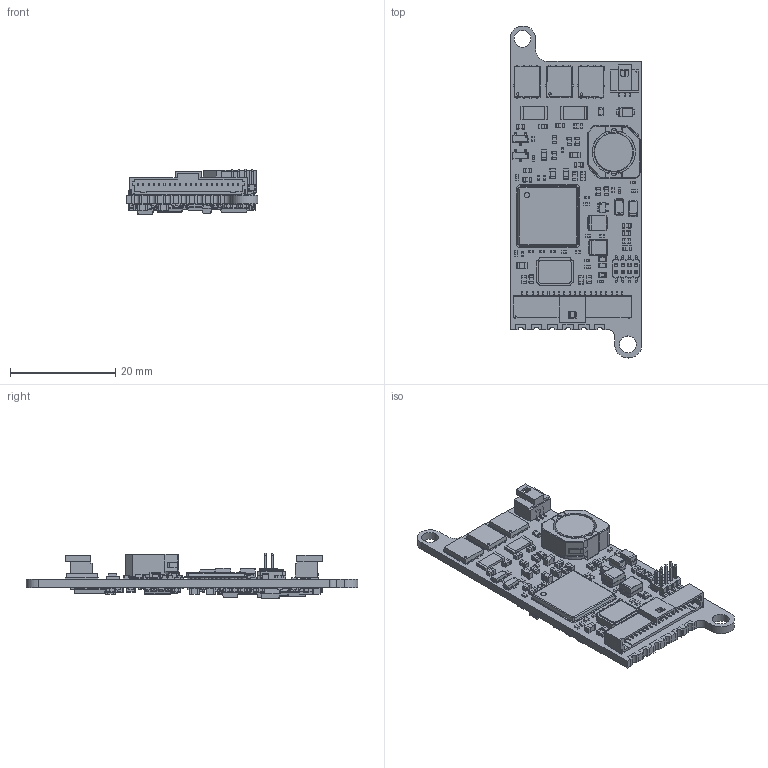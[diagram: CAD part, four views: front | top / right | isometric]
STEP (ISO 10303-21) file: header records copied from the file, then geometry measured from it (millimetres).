
FILE_DESCRIPTION(/* description */ (''),/* implementation_level */ '2;1');
FILE_NAME(/* name */ 'C:\Releases\VMC\BASIC-101010\BASIC-101010_website\3d_VMC - BASIC-101010.stp',/* time_stamp */ '2022-07-19T12:17:53+02:00',/* author */ ('jbs3'),/* organization */ (''),/* preprocessor_version */ 'ST-DEVELOPER v17',/* originating_system */ 'Autodesk Inventor 2018',/* authorisation */ '');
FILE_SCHEMA (('AUTOMOTIVE_DESIGN { 1 0 10303 214 3 1 1 }'));
Products named in the file (1): 3d_VMC - BASIC-101010
Bounding box: 25 x 63.01 x 8.7 mm (x, y, z)
Volume: 3485.3 mm3; surface area: 7466.7 mm2
Topology: 197 solids, 197 shells, 9091 faces, 23348 edges, 14274 vertices
Faces by surface type: plane 6338, cylinder 2124, sphere 528, bspline 72, cone 20, torus 9
Full cylindrical faces by diameter (mm): 0.1 x1, 0.156 x1, 0.487 x1, 0.55 x1, 1 x1, 3.2 x2, 4.8 x1, 7.5 x1, 8.2 x1, 9.7 x1
Entity records: 279359 total; most frequent: CARTESIAN_POINT 50295, ORIENTED_EDGE 45612, DIRECTION 45140, EDGE_CURVE 22806, LINE 18392, VECTOR 18392, VERTEX_POINT 14274, AXIS2_PLACEMENT_3D 13374
